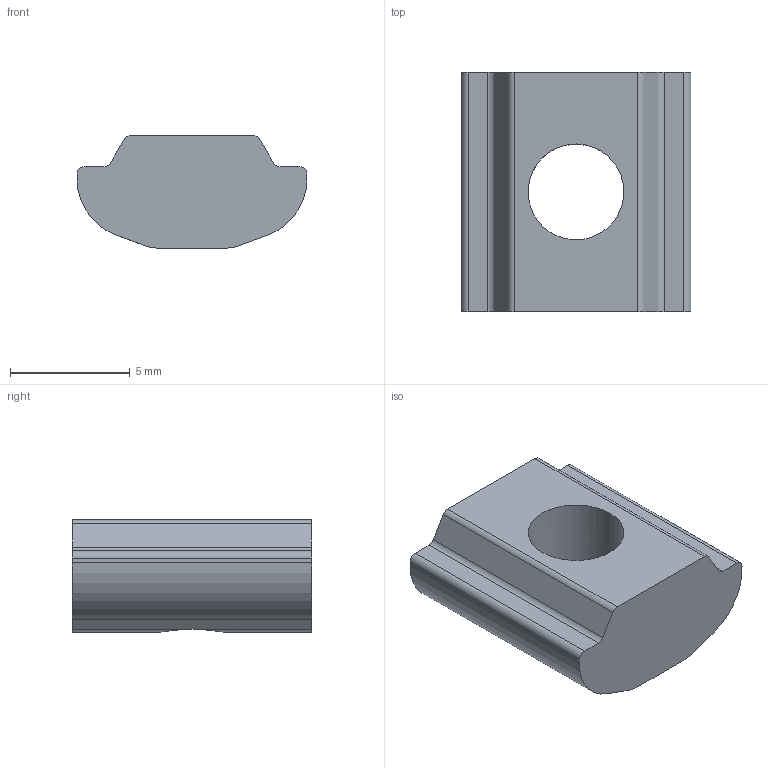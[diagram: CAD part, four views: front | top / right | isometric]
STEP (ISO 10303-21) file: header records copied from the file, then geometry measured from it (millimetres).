
FILE_DESCRIPTION(('STEP AP214'),'1');
FILE_NAME('NF25-M4.stp','2016-10-19T00:11:00',(' '),(' '),'Spatial InterOp 3D',' ',' ');
FILE_SCHEMA(('automotive_design'));
Length unit declared in the file: millimetre
Products named in the file (1): NF25-M4
Bounding box: 9.6 x 10 x 4.7 mm (x, y, z)
Volume: 300.9 mm3; surface area: 348.6 mm2
Topology: 1 solids, 1 shells, 26 faces, 75 edges, 50 vertices
Faces by surface type: cylinder 13, plane 13
Full cylindrical faces by diameter (mm): 4 x1
Entity records: 1090 total; most frequent: CARTESIAN_POINT 169, DIRECTION 148, ORIENTED_EDGE 146, EDGE_CURVE 73, AXIS2_PLACEMENT_3D 52, VERTEX_POINT 49, LINE 44, VECTOR 44
